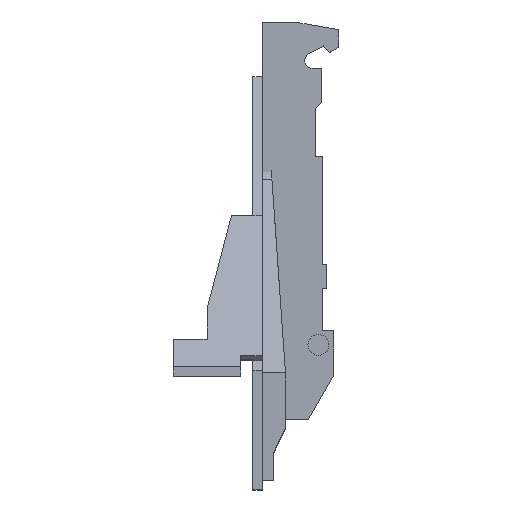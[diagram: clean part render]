
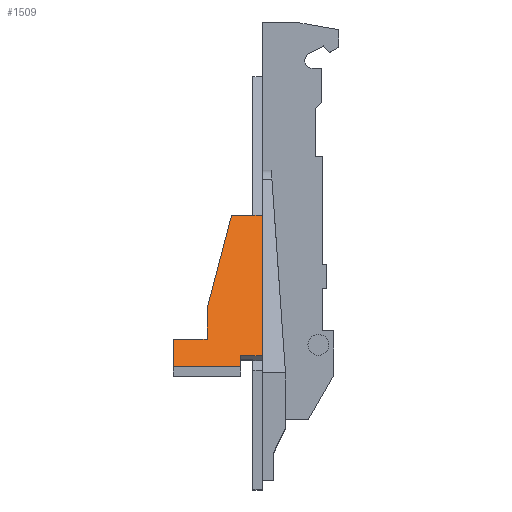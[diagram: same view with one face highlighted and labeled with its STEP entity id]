
A CAD part, top view. The second image highlights one B-rep face of the part: STEP entity #1509.
In plain terms, the highlighted planar face has unit normal (0, 0.432, 0.902).
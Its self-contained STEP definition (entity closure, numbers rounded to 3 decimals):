
#21 = LINE ( 'NONE', #2914, #1364 ) ;
#189 = FACE_OUTER_BOUND ( 'NONE', #438, .T. ) ;
#438 = EDGE_LOOP ( 'NONE', ( #1157, #1266, #1144, #1135, #1133, #1134, #1147, #1100, #1099 ) ) ;
#1099 = ORIENTED_EDGE ( 'NONE', *, *, #3845, .F. ) ;
#1100 = ORIENTED_EDGE ( 'NONE', *, *, #4180, .F. ) ;
#1133 = ORIENTED_EDGE ( 'NONE', *, *, #3923, .F. ) ;
#1134 = ORIENTED_EDGE ( 'NONE', *, *, #4013, .F. ) ;
#1135 = ORIENTED_EDGE ( 'NONE', *, *, #4245, .T. ) ;
#1144 = ORIENTED_EDGE ( 'NONE', *, *, #4094, .T. ) ;
#1147 = ORIENTED_EDGE ( 'NONE', *, *, #3947, .T. ) ;
#1157 = ORIENTED_EDGE ( 'NONE', *, *, #4060, .T. ) ;
#1266 = ORIENTED_EDGE ( 'NONE', *, *, #3969, .T. ) ;
#1364 = VECTOR ( 'NONE', #2909, 1000. ) ;
#1509 = ADVANCED_FACE ( 'NONE', ( #189 ), #4387, .F. ) ;
#1632 = DIRECTION ( 'NONE',  ( 0., -0.902, 0.432 ) ) ;
#1644 = CARTESIAN_POINT ( 'NONE',  ( -13., 35.853, 20.068 ) ) ;
#1723 = DIRECTION ( 'NONE',  ( 0., -0.902, 0.432 ) ) ;
#1724 = CARTESIAN_POINT ( 'NONE',  ( 1.5, 35.853, 20.068 ) ) ;
#1867 = LINE ( 'NONE', #1644, #1877 ) ;
#1877 = VECTOR ( 'NONE', #1632, 1000. ) ;
#2059 = VERTEX_POINT ( 'NONE', #4366 ) ;
#2070 = VERTEX_POINT ( 'NONE', #4334 ) ;
#2263 = VERTEX_POINT ( 'NONE', #3632 ) ;
#2264 = VERTEX_POINT ( 'NONE', #3631 ) ;
#2265 = VERTEX_POINT ( 'NONE', #3630 ) ;
#2266 = VERTEX_POINT ( 'NONE', #3629 ) ;
#2267 = VERTEX_POINT ( 'NONE', #3627 ) ;
#2327 = LINE ( 'NONE', #2807, #2328 ) ;
#2328 = VECTOR ( 'NONE', #2806, 1000. ) ;
#2396 = LINE ( 'NONE', #4721, #2397 ) ;
#2397 = VECTOR ( 'NONE', #4719, 1000. ) ;
#2466 = VERTEX_POINT ( 'NONE', #3573 ) ;
#2469 = VERTEX_POINT ( 'NONE', #3569 ) ;
#2593 = LINE ( 'NONE', #4741, #2594 ) ;
#2594 = VECTOR ( 'NONE', #4740, 1000. ) ;
#2706 = LINE ( 'NONE', #1724, #2707 ) ;
#2707 = VECTOR ( 'NONE', #1723, 1000. ) ;
#2769 = DIRECTION ( 'NONE',  ( -1., 0., 0. ) ) ;
#2770 = CARTESIAN_POINT ( 'NONE',  ( -2., 11., 31.976 ) ) ;
#2806 = DIRECTION ( 'NONE',  ( 0., -0.902, 0.432 ) ) ;
#2807 = CARTESIAN_POINT ( 'NONE',  ( -2., 11., 31.976 ) ) ;
#2909 = DIRECTION ( 'NONE',  ( 0., -0.902, 0.432 ) ) ;
#2914 = CARTESIAN_POINT ( 'NONE',  ( -7.5, 15.562, 29.79 ) ) ;
#2962 = DIRECTION ( 'NONE',  ( 1., 0., 0. ) ) ;
#2963 = CARTESIAN_POINT ( 'NONE',  ( 1.5, 12.857, 31.086 ) ) ;
#3013 = VECTOR ( 'NONE', #2962, 1000. ) ;
#3014 = LINE ( 'NONE', #2963, #3013 ) ;
#3030 = VECTOR ( 'NONE', #2769, 1000. ) ;
#3031 = LINE ( 'NONE', #2770, #3030 ) ;
#3145 = VECTOR ( 'NONE', #3225, 1000. ) ;
#3155 = LINE ( 'NONE', #3231, #3145 ) ;
#3225 = DIRECTION ( 'NONE',  ( 1., 0., 0. ) ) ;
#3231 = CARTESIAN_POINT ( 'NONE',  ( 1.5, 35.853, 20.068 ) ) ;
#3569 = CARTESIAN_POINT ( 'NONE',  ( 1.5, 35.853, 20.068 ) ) ;
#3573 = CARTESIAN_POINT ( 'NONE',  ( 1.5, 12.857, 31.086 ) ) ;
#3627 = CARTESIAN_POINT ( 'NONE',  ( -13., 15.562, 29.79 ) ) ;
#3629 = CARTESIAN_POINT ( 'NONE',  ( -3.5, 35.853, 20.068 ) ) ;
#3630 = CARTESIAN_POINT ( 'NONE',  ( -7.5, 20.522, 27.414 ) ) ;
#3631 = CARTESIAN_POINT ( 'NONE',  ( -7.5, 15.562, 29.79 ) ) ;
#3632 = CARTESIAN_POINT ( 'NONE',  ( -2., 12.857, 31.086 ) ) ;
#3751 = AXIS2_PLACEMENT_3D ( 'NONE', #4382, #4375, #4374 ) ;
#3845 = EDGE_CURVE ( 'NONE', #2266, #2469, #3155, .T. ) ;
#3923 = EDGE_CURVE ( 'NONE', #2059, #2070, #3031, .T. ) ;
#3947 = EDGE_CURVE ( 'NONE', #2263, #2466, #3014, .T. ) ;
#3969 = EDGE_CURVE ( 'NONE', #2265, #2264, #21, .T. ) ;
#4013 = EDGE_CURVE ( 'NONE', #2263, #2059, #2327, .T. ) ;
#4060 = EDGE_CURVE ( 'NONE', #2266, #2265, #2396, .T. ) ;
#4094 = EDGE_CURVE ( 'NONE', #2264, #2267, #2593, .T. ) ;
#4180 = EDGE_CURVE ( 'NONE', #2469, #2466, #2706, .T. ) ;
#4245 = EDGE_CURVE ( 'NONE', #2267, #2070, #1867, .T. ) ;
#4334 = CARTESIAN_POINT ( 'NONE',  ( -13., 11., 31.976 ) ) ;
#4366 = CARTESIAN_POINT ( 'NONE',  ( -2., 11., 31.976 ) ) ;
#4374 = DIRECTION ( 'NONE',  ( 0., 0.902, -0.432 ) ) ;
#4375 = DIRECTION ( 'NONE',  ( 0., -0.432, -0.902 ) ) ;
#4382 = CARTESIAN_POINT ( 'NONE',  ( 1.5, 35.853, 20.068 ) ) ;
#4387 = PLANE ( 'NONE',  #3751 ) ;
#4719 = DIRECTION ( 'NONE',  ( -0.229, -0.878, 0.421 ) ) ;
#4721 = CARTESIAN_POINT ( 'NONE',  ( -7.5, 20.522, 27.414 ) ) ;
#4740 = DIRECTION ( 'NONE',  ( -1., 0., 0. ) ) ;
#4741 = CARTESIAN_POINT ( 'NONE',  ( -13., 15.562, 29.79 ) ) ;
